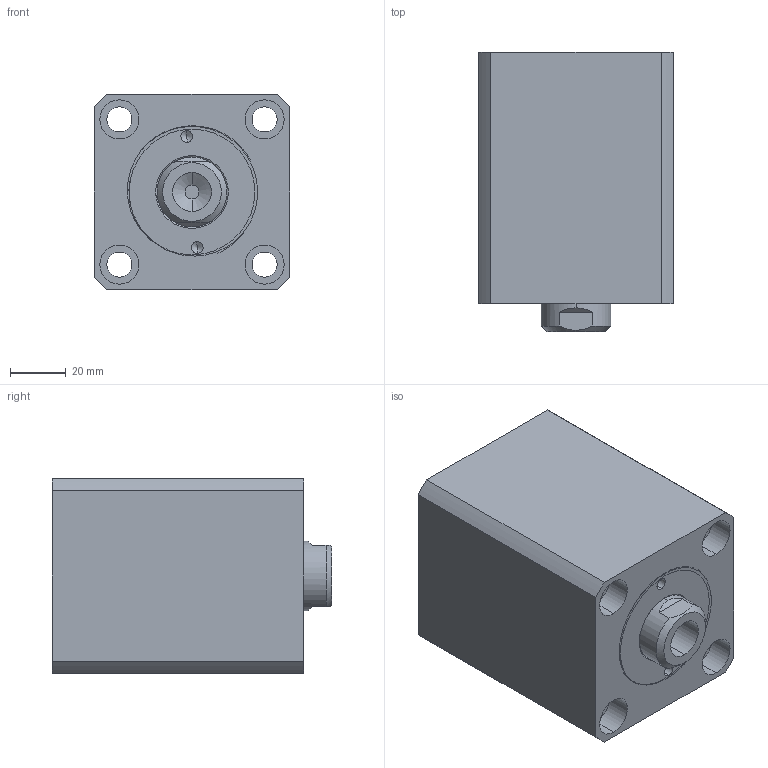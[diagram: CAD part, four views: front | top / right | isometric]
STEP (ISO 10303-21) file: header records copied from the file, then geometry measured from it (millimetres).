
FILE_DESCRIPTION (( 'STEP AP214' ), '1' );
FILE_NAME ('chtb-sdmb40x35n_asm.STEP', '2018-06-07T02:11:24', ( 'Windows' ), ( 'Microsoft' ), 'SwSTEP 2.0', 'SolidWorks 2015', '' );
FILE_SCHEMA (( 'AUTOMOTIVE_DESIGN' ));
Length unit declared in the file: millimetre
Products named in the file (4): chtb-sdmb40x35n_asm; CHTB-SD40QG; CHTB-SDMB40X35NBT; CHTB-SD40X35NHSG
Assembly tree (3 placements, depth 2):
  chtb-sdmb40x35n_asm
    CHTB-SD40X35NHSG
    CHTB-SDMB40X35NBT
    CHTB-SD40QG
Bounding box: 70 x 100 x 70 mm (x, y, z)
Volume: 374564.1 mm3; surface area: 80270.3 mm2
Topology: 3 solids, 3 shells, 155 faces, 407 edges, 270 vertices
Faces by surface type: cylinder 84, plane 34, torus 14, bspline 14, cone 9
Entity records: 10007 total; most frequent: CARTESIAN_POINT 6085, ORIENTED_EDGE 802, DIRECTION 758, EDGE_CURVE 401, AXIS2_PLACEMENT_3D 322, VERTEX_POINT 270, EDGE_LOOP 191, CIRCLE 175
